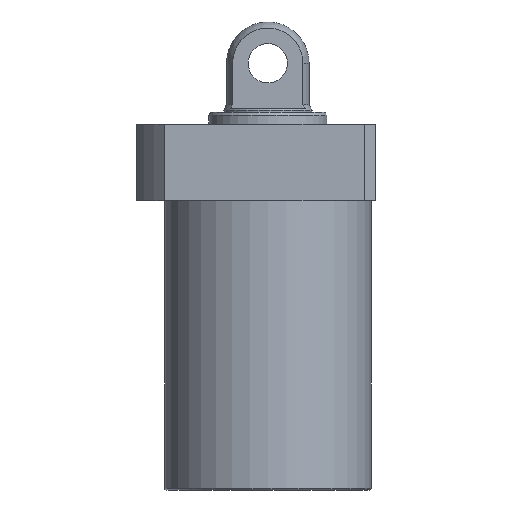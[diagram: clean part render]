
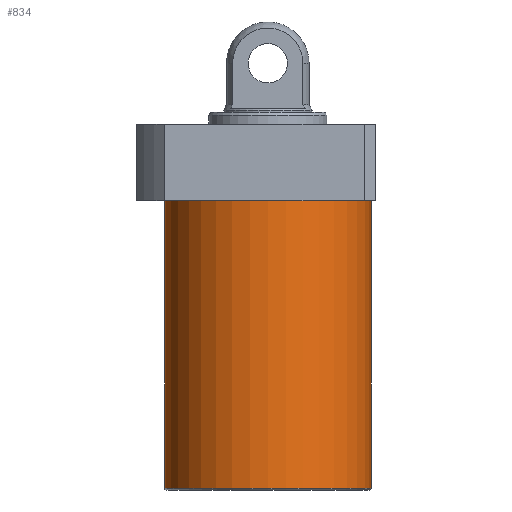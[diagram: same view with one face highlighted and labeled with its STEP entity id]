
A CAD part, front view. The second image highlights one B-rep face of the part: STEP entity #834.
In plain terms, the highlighted cylindrical face has radius 52.5 mm (diameter 105 mm), a partial arc.
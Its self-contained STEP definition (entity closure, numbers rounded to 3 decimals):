
#26 = AXIS2_PLACEMENT_3D ( 'NONE', #403, #963, #1386 ) ;
#68 = VERTEX_POINT ( 'NONE', #1568 ) ;
#74 = VECTOR ( 'NONE', #528, 1000. ) ;
#90 = AXIS2_PLACEMENT_3D ( 'NONE', #509, #1790, #809 ) ;
#93 = VERTEX_POINT ( 'NONE', #1700 ) ;
#142 = ORIENTED_EDGE ( 'NONE', *, *, #1126, .F. ) ;
#190 = VERTEX_POINT ( 'NONE', #754 ) ;
#218 = CARTESIAN_POINT ( 'NONE',  ( -52.5, 0., -166.5 ) ) ;
#314 = CARTESIAN_POINT ( 'NONE',  ( 0., 0., -19.5 ) ) ;
#338 = DIRECTION ( 'NONE',  ( 0., 0., 1. ) ) ;
#403 = CARTESIAN_POINT ( 'NONE',  ( 0., 0., -165.5 ) ) ;
#425 = ORIENTED_EDGE ( 'NONE', *, *, #1076, .T. ) ;
#427 = CYLINDRICAL_SURFACE ( 'NONE', #90, 52.5 ) ;
#455 = VERTEX_POINT ( 'NONE', #946 ) ;
#509 = CARTESIAN_POINT ( 'NONE',  ( 0., 0., -166.5 ) ) ;
#528 = DIRECTION ( 'NONE',  ( 0., 0., 1. ) ) ;
#553 = CIRCLE ( 'NONE', #1166, 52.5 ) ;
#754 = CARTESIAN_POINT ( 'NONE',  ( 52.5, 0., -19.5 ) ) ;
#788 = EDGE_CURVE ( 'NONE', #455, #190, #1289, .T. ) ;
#809 = DIRECTION ( 'NONE',  ( 1., 0., 0. ) ) ;
#834 = ADVANCED_FACE ( 'NONE', ( #1486 ), #427, .T. ) ;
#946 = CARTESIAN_POINT ( 'NONE',  ( 52.5, 0., -165.5 ) ) ;
#963 = DIRECTION ( 'NONE',  ( 0., 0., 1. ) ) ;
#969 = EDGE_LOOP ( 'NONE', ( #142, #1073, #1399, #425 ) ) ;
#1018 = VECTOR ( 'NONE', #338, 1000. ) ;
#1073 = ORIENTED_EDGE ( 'NONE', *, *, #1767, .T. ) ;
#1076 = EDGE_CURVE ( 'NONE', #190, #68, #553, .T. ) ;
#1126 = EDGE_CURVE ( 'NONE', #93, #68, #1278, .T. ) ;
#1166 = AXIS2_PLACEMENT_3D ( 'NONE', #314, #1328, #1739 ) ;
#1223 = CARTESIAN_POINT ( 'NONE',  ( 52.5, 0., -166.5 ) ) ;
#1278 = LINE ( 'NONE', #218, #74 ) ;
#1289 = LINE ( 'NONE', #1223, #1018 ) ;
#1328 = DIRECTION ( 'NONE',  ( 0., 0., -1. ) ) ;
#1386 = DIRECTION ( 'NONE',  ( -1., 0., 0. ) ) ;
#1399 = ORIENTED_EDGE ( 'NONE', *, *, #788, .T. ) ;
#1486 = FACE_OUTER_BOUND ( 'NONE', #969, .T. ) ;
#1568 = CARTESIAN_POINT ( 'NONE',  ( -52.5, 0., -19.5 ) ) ;
#1671 = CIRCLE ( 'NONE', #26, 52.5 ) ;
#1700 = CARTESIAN_POINT ( 'NONE',  ( -52.5, 0., -165.5 ) ) ;
#1739 = DIRECTION ( 'NONE',  ( 1., 0., 0. ) ) ;
#1767 = EDGE_CURVE ( 'NONE', #93, #455, #1671, .T. ) ;
#1790 = DIRECTION ( 'NONE',  ( 0., 0., 1. ) ) ;
